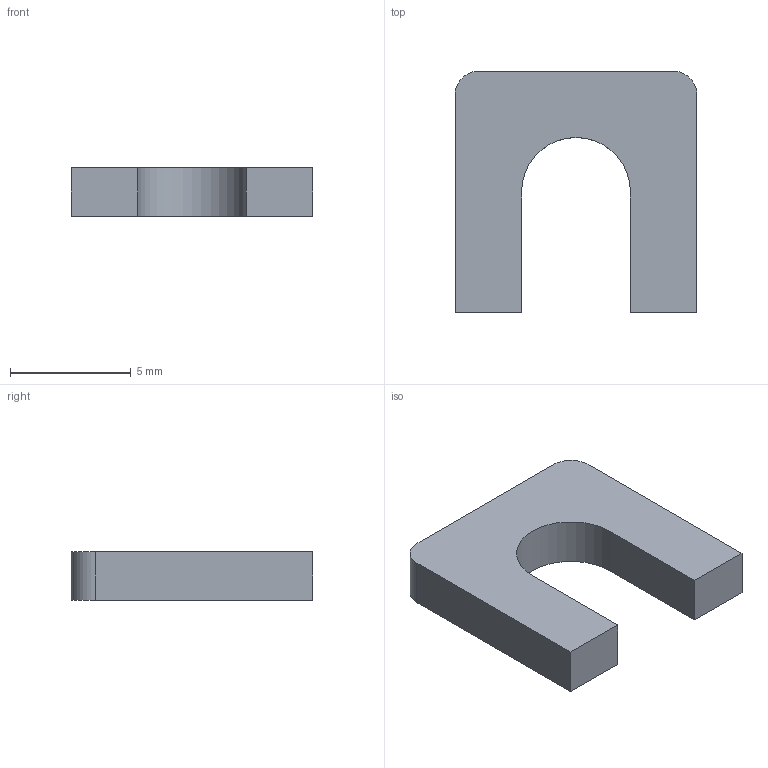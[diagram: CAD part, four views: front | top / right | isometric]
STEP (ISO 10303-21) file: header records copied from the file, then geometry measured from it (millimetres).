
FILE_DESCRIPTION (( 'STEP AP203' ), '1' );
FILE_NAME ('v4trava_rodinha.STEP', '2026-08-19T20:49:51', ( '' ), ( '' ), 'SwSTEP 2.0', 'SolidWorks 2024', '' );
FILE_SCHEMA (( 'CONFIG_CONTROL_DESIGN' ));
Length unit declared in the file: millimetre
Products named in the file (1): v4trava_rodinha
Bounding box: 10 x 10 x 2 mm (x, y, z)
Volume: 138.2 mm3; surface area: 241.7 mm2
Topology: 1 solids, 1 shells, 12 faces, 30 edges, 20 vertices
Faces by surface type: plane 9, cylinder 3
Entity records: 435 total; most frequent: CARTESIAN_POINT 63, DIRECTION 62, ORIENTED_EDGE 60, EDGE_CURVE 30, LINE 24, VECTOR 24, VERTEX_POINT 20, AXIS2_PLACEMENT_3D 19
